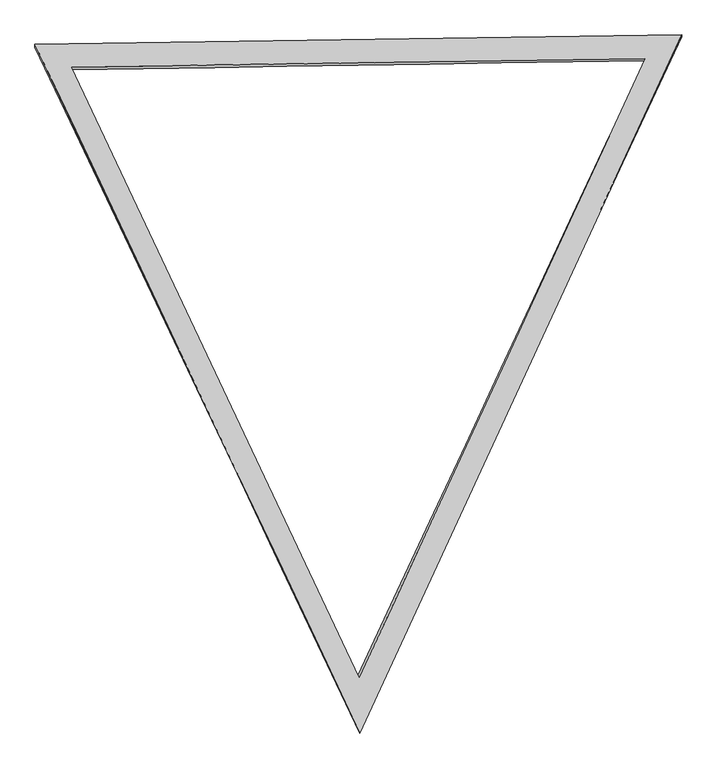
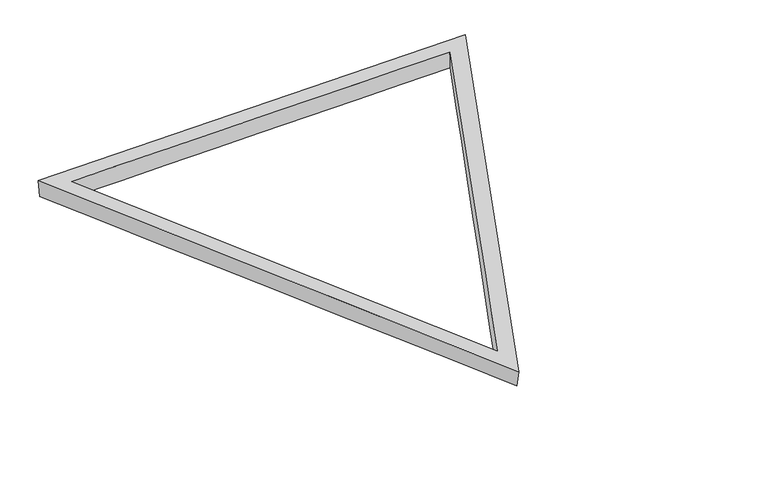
"""IFC4 building model written with IfcOpenShell, lengths in millimetres: plate geometry."""

from ifc_helpers import new_model, si_unit, frame, origin, place, context, project, spatial, source, transform, mapped, element, save
from ifc_brep_helpers import plane_surface, spline_surface, advanced_brep


def plate_ba2d2b6b(model_context):
    return source(origin(), model_context, "Body", "AdvancedBrep", [
        advanced_brep(
        [(3618.0305946, 6820.4195773, 0.0), (3617.3530137, 6846.1156256, 201.5171884), (6106.0041097, 1566.7772661, 201.2884008), (6094.5852102, 1589.4162874, 0.0), (8572.7549294, 6916.0880832, 202.628523), (8571.1398259, 6901.5240507, 0.0), (6096.0, 1111.5555602, 0.0), (8892.5377614, 7110.0140068, 0.0), (8892.3116856, 7123.8206199, 202.7302797), (6108.0304183, 1085.9242168, 201.2176515), (3299.4622386, 7018.430433, 0.0), (3299.0297797, 7044.8410159, 201.4758896)],
        [
            (0, 1),
            (1, 2),
            (2, 3),
            (3, 0),
            (2, 4),
            (4, 5),
            (5, 3),
            (0, 5),
            (4, 1),
            (6, 7),
            (7, 8),
            (8, 9),
            (9, 6),
            (7, 10),
            (10, 11),
            (11, 8),
            (9, 11),
            (10, 6),
        ],
        [
            spline_surface(1, 1, [[(3618.0305946, 6820.4195773, 0.0), (6094.5852102, 1589.4162874, 0.0)], [(3617.3530137, 6846.1156256, 201.5171884), (6106.0041097, 1566.7772661, 201.2884008)]], [2, 2], [2, 2], [0.0, 1.0], [0.0, 1.0]),
            spline_surface(1, 1, [[(6094.5852102, 1589.4162874, 0.0), (8571.1398259, 6901.5240507, 0.0)], [(6106.0041097, 1566.7772661, 201.2884008), (8572.7549294, 6916.0880832, 202.628523)]], [2, 2], [2, 2], [0.0, 1.0], [0.0, 1.0]),
            spline_surface(1, 1, [[(8571.1398259, 6901.5240507, 0.0), (3618.0305946, 6820.4195773, 0.0)], [(8572.7549294, 6916.0880832, 202.628523), (3617.3530137, 6846.1156256, 201.5171884)]], [2, 2], [2, 2], [0.0, 1.0], [0.0, 1.0]),
            spline_surface(1, 1, [[(6096.0, 1111.5555602, 0.0), (6108.0304183, 1085.9242168, 201.2176515)], [(8892.5377614, 7110.0140068, 0.0), (8892.3116856, 7123.8206199, 202.7302797)]], [2, 2], [2, 2], [0.0, 1.0], [0.0, 1.0]),
            spline_surface(1, 1, [[(8892.5377614, 7110.0140068, 0.0), (8892.3116856, 7123.8206199, 202.7302797)], [(3299.4622386, 7018.430433, 0.0), (3299.0297797, 7044.8410159, 201.4758896)]], [2, 2], [2, 2], [0.0, 1.0], [0.0, 1.0]),
            spline_surface(1, 1, [[(3299.4622386, 7018.430433, 0.0), (3299.0297797, 7044.8410159, 201.4758896)], [(6096.0, 1111.5555602, 0.0), (6108.0304183, 1085.9242168, 201.2176515)]], [2, 2], [2, 2], [0.0, 1.0], [0.0, 1.0]),
            plane_surface(frame((6099.7906278, 5084.8619509, 201.8079403), z_axis=(-0.00022217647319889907, -0.00014806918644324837, 0.9999999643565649), x_axis=(0.4263940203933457, -0.9045375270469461, -3.919941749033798e-05))),
            plane_surface(frame((6096.0, 5080.0, 0.0), z_axis=(0.0, 0.0, -1.0), x_axis=(-0.42790442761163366, 0.9038239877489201, 0.0))),
        ],
        [
            (0, [[1, 2, 3, 4]]),
            (1, [[-3, 5, 6, 7]]),
            (2, [[-1, 8, -6, 9]]),
            (3, [[10, 11, 12, 13]]),
            (4, [[-11, 14, 15, 16]]),
            (5, [[-13, 17, -15, 18]]),
            (6, [[-12, -16, -17], [-2, -9, -5]]),
            (7, [[-10, -18, -14], [-4, -7, -8]]),
        ],
    ),
    ])


if __name__ == "__main__":
    model = new_model("IFC4")
    model_context = context("Model", 3, world=origin())
    ifc_project = project(units=[si_unit("LENGTHUNIT", "METRE", prefix="MILLI")], contexts=[model_context])
    site = spatial("IfcSite", under=ifc_project)
    building = spatial("IfcBuilding", under=site)
    placement = place(None, origin())
    plate_shape = plate_ba2d2b6b(model_context)
    element("IfcPlate", 1, ObjectType="tn_cpanel_patbase_triangle_flat_seamless_frame_02_cylinder : tn_triangle_seamless_frame_t8\"xh8\"", at=placement, inside=building, context=model_context, shape_type="MappedRepresentation", body=[
        mapped(plate_shape, transform((0.0, 0.0, 0.0), x_axis=(1.0, 0.0, 0.0), y_axis=(0.0, 1.0, 0.0), z_axis=(0.0, 0.0, 1.0))),
    ])
    save(model, "model.ifc")
